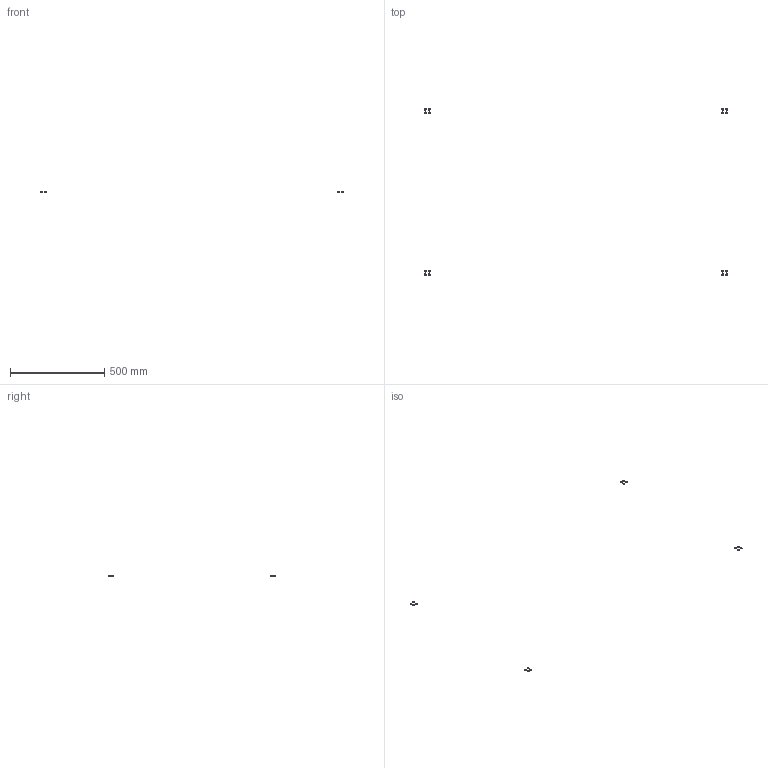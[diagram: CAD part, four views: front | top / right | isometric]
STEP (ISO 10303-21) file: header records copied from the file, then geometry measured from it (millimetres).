
FILE_DESCRIPTION(/* description */ (''),/* implementation_level */ '2;1');
FILE_NAME(/* name */ 'FR4992~1',/* time_stamp */ '2014-02-14T19:31:18+01:00',/* author */ (''),/* organization */ (''),/* preprocessor_version */ 'ST-DEVELOPER v14',/* originating_system */ '',/* authorisation */ '');
FILE_SCHEMA (('AUTOMOTIVE_DESIGN'));
Length unit declared in the file: millimetre
Products named in the file (2): Document; washer DIN125-like, form A, M5
Assembly tree (8 placements, depth 2):
  Document
    washer DIN125-like, form A, M5  x8
Bounding box: 1610 x 890 x 1 mm (x, y, z)
Surface area: 2579.8 mm2 (no closed solid volume)
Topology: 0 solids, 96 shells, 96 faces, 320 edges, 320 vertices
Faces by surface type: bspline 64, plane 32
Entity records: 4551 total; most frequent: CARTESIAN_POINT 2297, B_SPLINE_CURVE_WITH_KNOTS 216, ORIENTED_EDGE 180, PCURVE 180, DEFINITIONAL_REPRESENTATION 180, SURFACE_CURVE 180, EDGE_CURVE 180, VERTEX_POINT 180
